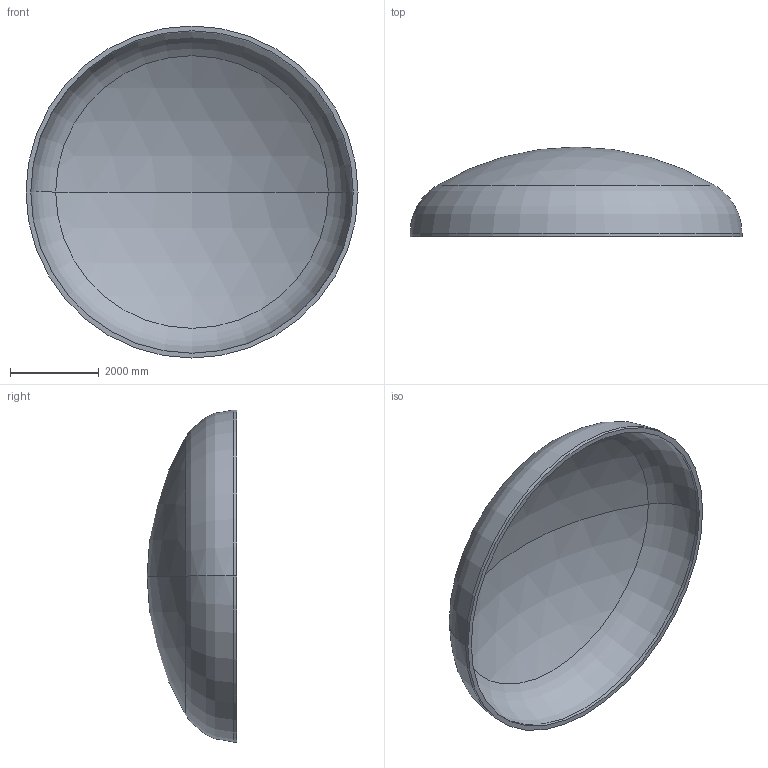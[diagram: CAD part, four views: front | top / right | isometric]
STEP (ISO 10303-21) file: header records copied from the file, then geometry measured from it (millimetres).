
FILE_DESCRIPTION (( 'STEP AP203' ), '1' );
FILE_NAME ('DIN 28013 Korbbogenform_-_Boden DIN 28013 - 7500 x 75 - I - s=108.step', '2016-07-04T10:57:22', ( '' ), ( '' ), 'SwSTEP 2.0', 'SolidWorks 2013', '' );
FILE_SCHEMA (( 'CONFIG_CONTROL_DESIGN' ));
Length unit declared in the file: millimetre
Products named in the file (1): DIN 28013 Korbbogenform_-_Boden DIN 28013 - 7500 x 75 - I - s=108
Bounding box: 7500 x 2025.01 x 7500 mm (x, y, z)
Volume: 6671763182 mm3; surface area: 126083598.1 mm2
Topology: 1 solids, 1 shells, 13 faces, 24 edges, 14 vertices
Faces by surface type: torus 4, cylinder 4, sphere 4, plane 1
Entity records: 407 total; most frequent: DIRECTION 72, CARTESIAN_POINT 52, ORIENTED_EDGE 48, AXIS2_PLACEMENT_3D 34, EDGE_CURVE 24, CIRCLE 20, EDGE_LOOP 14, VERTEX_POINT 14
